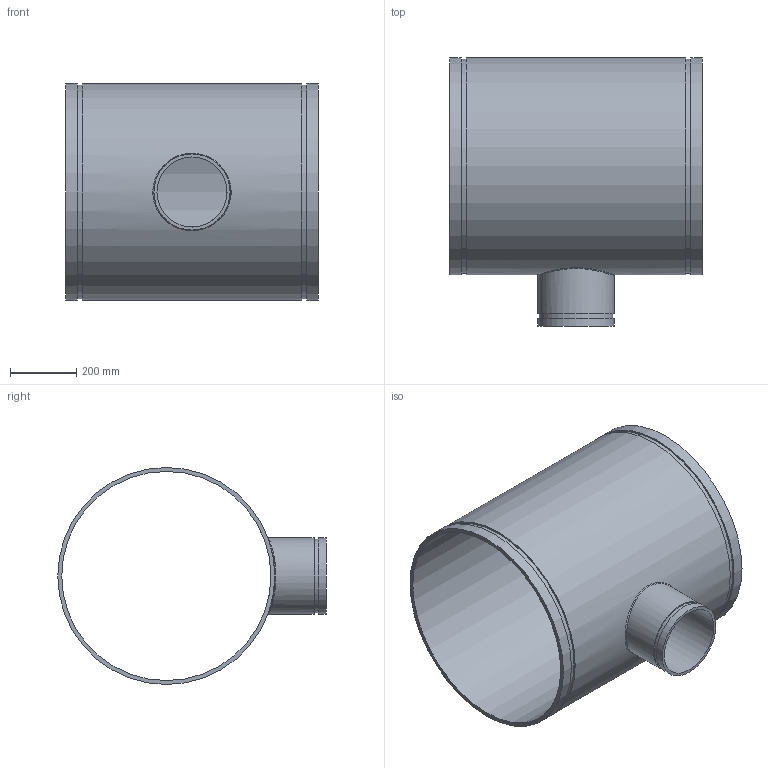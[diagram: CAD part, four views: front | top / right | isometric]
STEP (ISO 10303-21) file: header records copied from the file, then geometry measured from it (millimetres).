
FILE_DESCRIPTION(/* description */ ('VIC REDUCING TEE No 25-C','CAx-IF Rec.Pracs.---Representation and Presentation of Product Manufacturing Information (PMI)---4.0---2014-10-13'),/* implementation_level */ '2;1');
FILE_NAME(/* name */ 'C:\Users\Vjadhav\AppData\Roaming\Autodesk\ApplicationPlugins\Back Up\Victaulic_AWWA_Tee Reducing_No 25-C (DRG)\Victaulic_AWWA_Tee Reducing_No 25-C (DRG)_24.0x08.0 (600x200).stp',/* time_stamp */ '2020-08-18T18:18:52+06:00',/* author */ ('CORINNE GRAY'),/* organization */ ('Victaulic'),/* preprocessor_version */ 'ST-DEVELOPER v17.2',/* originating_system */ 'Autodesk Inventor 2019',/* authorisation */ '');
FILE_SCHEMA (('AP242_MANAGED_MODEL_BASED_3D_ENGINEERING_MIM_LF { 1 0 10303 442 1 1 4 }'));
Length unit declared in the file: inch
Products named in the file (1): 25C-24.0x08.0
Bounding box: 762 x 810.26 x 655.32 mm (x, y, z)
Volume: 18650314.6 mm3; surface area: 3337246 mm2
Topology: 1 solids, 1 shells, 20 faces, 44 edges, 33 vertices
Faces by surface type: cylinder 10, plane 9, bspline 1
Full cylindrical faces by diameter (mm): 211.582 x1, 223.037 x1, 229.87 x2, 631.444 x1, 645.312 x2, 655.32 x3
Entity records: 982 total; most frequent: CARTESIAN_POINT 358, DIRECTION 135, ORIENTED_EDGE 90, AXIS2_PLACEMENT_3D 62, EDGE_CURVE 45, VERTEX_POINT 34, EDGE_LOOP 31, CIRCLE 29
